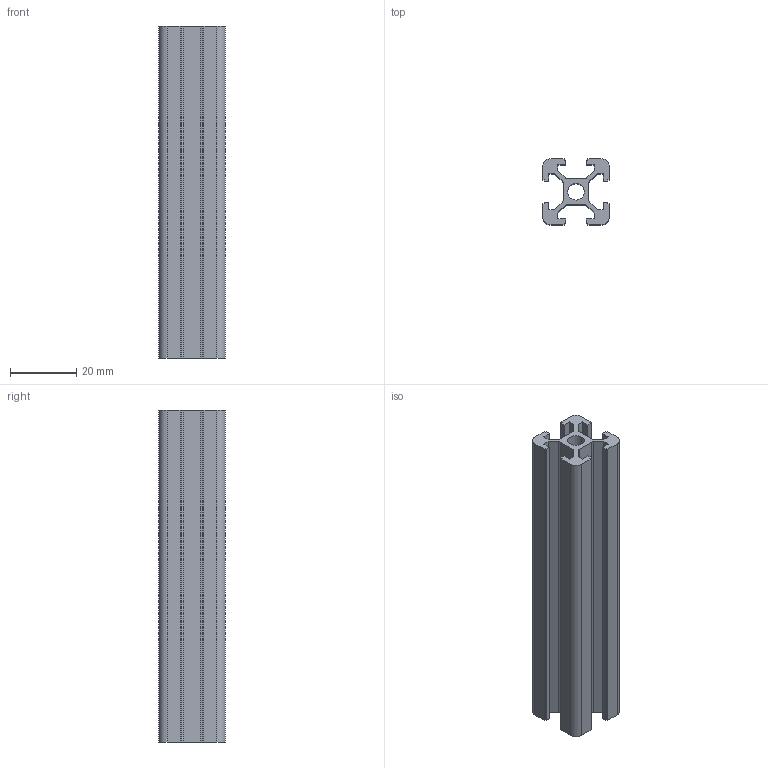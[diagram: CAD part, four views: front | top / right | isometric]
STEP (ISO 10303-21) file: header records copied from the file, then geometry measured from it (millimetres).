
FILE_DESCRIPTION (( 'STEP AP203' ), '1' );
FILE_NAME ('LIMA-2020-6.STEP', '2018-03-15T12:27:36', ( '' ), ( '' ), 'SwSTEP 2.0', 'SolidWorks 2013', '' );
FILE_SCHEMA (( 'CONFIG_CONTROL_DESIGN' ));
Length unit declared in the file: millimetre
Products named in the file (1): LIMA-2020-6
Bounding box: 20 x 20 x 100 mm (x, y, z)
Volume: 16474.1 mm3; surface area: 16975.5 mm2
Topology: 1 solids, 1 shells, 76 faces, 222 edges, 148 vertices
Faces by surface type: plane 62, cylinder 14
Entity records: 2575 total; most frequent: CARTESIAN_POINT 447, ORIENTED_EDGE 444, DIRECTION 404, EDGE_CURVE 222, VECTOR 194, LINE 194, VERTEX_POINT 148, AXIS2_PLACEMENT_3D 105
